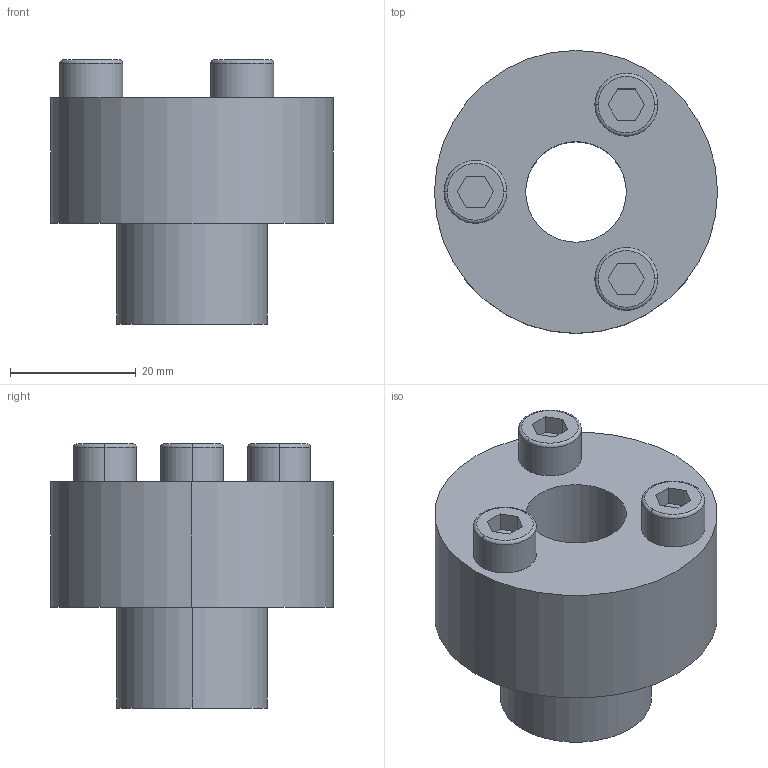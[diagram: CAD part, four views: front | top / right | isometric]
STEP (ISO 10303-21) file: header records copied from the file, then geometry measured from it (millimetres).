
FILE_DESCRIPTION (( 'STEP AP203' ), '1' );
FILE_NAME ('PL-C 16-24.STEP', '2021-10-22T08:28:45', ( '' ), ( '' ), 'SwSTEP 2.0', 'SolidWorks 2018', '' );
FILE_SCHEMA (( 'CONFIG_CONTROL_DESIGN' ));
Length unit declared in the file: millimetre
Products named in the file (1): PL-C 16-24
Bounding box: 45 x 45 x 42 mm (x, y, z)
Volume: 33022.5 mm3; surface area: 9322.9 mm2
Topology: 1 solids, 1 shells, 45 faces, 102 edges, 66 vertices
Faces by surface type: plane 27, cylinder 12, torus 6
Entity records: 1345 total; most frequent: DIRECTION 230, CARTESIAN_POINT 214, ORIENTED_EDGE 204, EDGE_CURVE 102, AXIS2_PLACEMENT_3D 82, LINE 66, VERTEX_POINT 66, VECTOR 66
